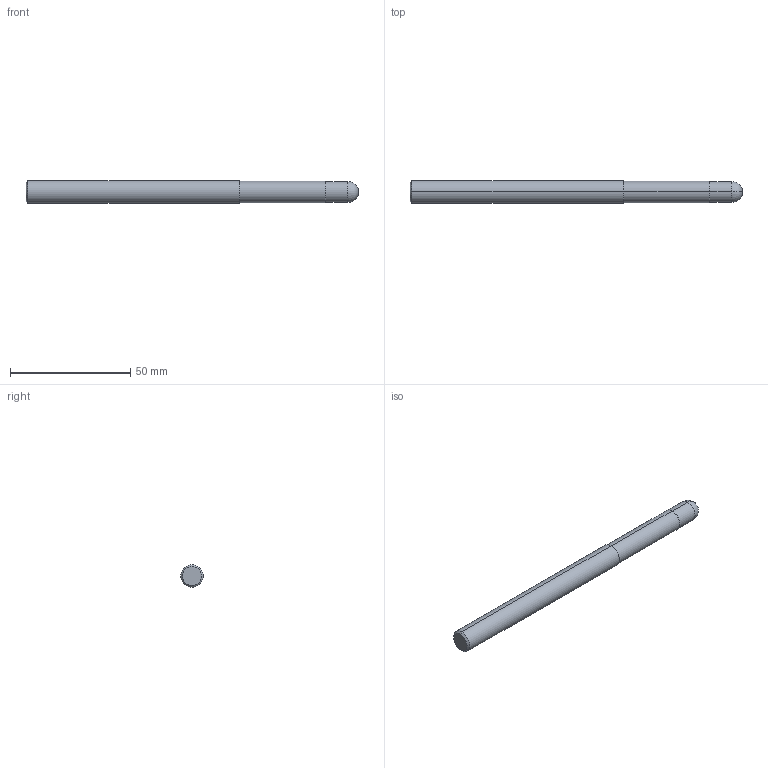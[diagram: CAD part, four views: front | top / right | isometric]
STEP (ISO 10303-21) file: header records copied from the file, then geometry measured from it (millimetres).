
FILE_DESCRIPTION (( 'STEP AP214' ), '1' );
FILE_NAME ('01-0232.STEP', '2021-02-09T23:55:07', ( 'USER' ), ( '' ), 'SwSTEP 2.0', 'SolidWorks 2018', '' );
FILE_SCHEMA (( 'AUTOMOTIVE_DESIGN' ));
Length unit declared in the file: millimetre
Products named in the file (2): 01-0232
Bounding box: 138.1 x 9.53 x 9.53 mm (x, y, z)
Volume: 9340.1 mm3; surface area: 4108 mm2
Topology: 1 solids, 1 shells, 16 faces, 30 edges, 16 vertices
Faces by surface type: cone 6, cylinder 6, torus 2, plane 2
Entity records: 445 total; most frequent: DIRECTION 84, CARTESIAN_POINT 64, ORIENTED_EDGE 60, AXIS2_PLACEMENT_3D 36, EDGE_CURVE 30, CIRCLE 18, VERTEX_POINT 16, ADVANCED_FACE 16
